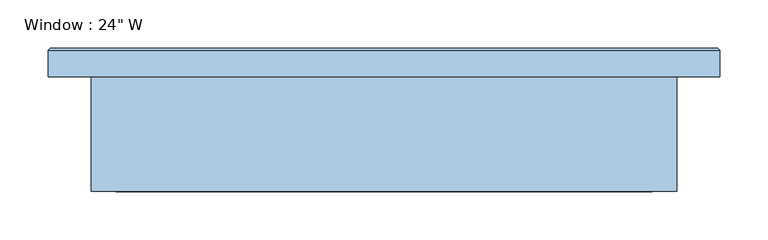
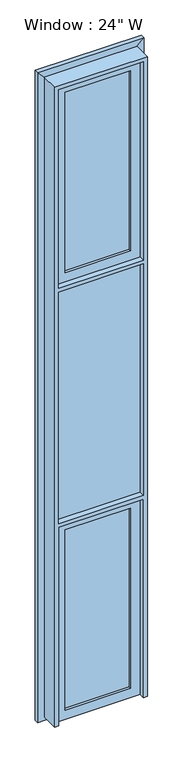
"""IFC4 building model written with IfcOpenShell, lengths in millimetres: window geometry."""

from ifc_helpers import new_model, si_unit, frame, origin, place, context, project, spatial, polyline, ellipse_curve, outline, extrude, faceted_brep, source, transform, mapped, element, save
from ifc_brep_helpers import plane_surface, cylinder_surface, advanced_brep


def window_8adb934c(model_context):
    return source(origin(), model_context, "Body", "SolidModel", [
        faceted_brep([(292.1, 119.0625, 781.05), (294.0950984, 121.0575984, 781.05), (294.345064, 121.307564, 781.05), (319.745064, 121.307564, 781.05), (321.9901281, 123.5526281, 781.05), (347.3901281, 123.5526281, 781.05), (349.6351921, 121.307564, 781.05), (349.6351921, 121.0575984, 781.05), (349.6351921, 93.6625, 781.05), (292.1, 93.6625, 781.05), (292.1, 119.0625, 781.5176691), (292.1, 119.0625, 5232.4), (294.345064, 121.307564, 5234.645064), (319.745064, 121.307564, 5260.045064), (321.9901281, 123.5526281, 5262.2901281), (347.3901281, 123.5526281, 5287.6901281), (349.6351921, 121.307564, 5289.9351921), (349.6351921, 93.6625, 5289.9351921), (349.6351921, 93.6625, 787.4716586), (292.1, 93.6625, 5232.4), (292.1, 93.6625, 787.4716586), (-292.1, 119.0625, 5232.4), (-294.345064, 121.307564, 5234.645064), (-319.745064, 121.307564, 5260.045064), (-321.9901281, 123.5526281, 5262.2901281), (-347.3901281, 123.5526281, 5287.6901281), (-349.6351921, 121.307564, 5289.9351921), (-349.6351921, 93.6625, 5289.9351921), (-292.1, 93.6625, 5232.4), (-292.1, 119.0625, 781.05), (-292.1, 93.6625, 781.05), (-349.6351921, 93.6625, 781.05), (-349.6351921, 121.0575984, 781.05), (-349.6351921, 121.307564, 781.05), (-347.3901281, 123.5526281, 781.05), (-321.9901281, 123.5526281, 781.05), (-319.745064, 121.307564, 781.05), (-294.345064, 121.307564, 781.05), (-294.0950984, 121.0575984, 781.05), (-292.1, 119.0625, 781.5176691), (-349.6351921, 93.6625, 787.4716586), (-292.1, 93.6625, 787.4716586)], [[[0, 1, 2, 3, 4, 5, 6, 7, 8, 9]], [[2, 1, 0, 10, 11, 12]], [[3, 2, 12, 13]], [[4, 3, 13, 14]], [[5, 4, 14, 15]], [[6, 5, 15, 16]], [[8, 7, 6, 16, 17, 18]], [[9, 8, 18, 17, 19, 20]], [[0, 9, 20, 19, 11, 10]], [[12, 11, 21, 22]], [[13, 12, 22, 23]], [[14, 13, 23, 24]], [[15, 14, 24, 25]], [[16, 15, 25, 26]], [[17, 16, 26, 27]], [[19, 17, 27, 28]], [[11, 19, 28, 21]], [[29, 30, 31, 32, 33, 34, 35, 36, 37, 38]], [[22, 21, 39, 29, 38, 37]], [[23, 22, 37, 36]], [[24, 23, 36, 35]], [[25, 24, 35, 34]], [[26, 25, 34, 33]], [[27, 26, 33, 32, 31, 40]], [[28, 27, 40, 31, 30, 41]], [[21, 28, 41, 30, 29, 39]]]),
        extrude(outline(polyline([(2184.4, -279.4), (806.45, -279.4), (806.45, 279.4), (2184.4, 279.4), (2184.4, -279.4)]), holes=[polyline([(2120.9, -215.9), (2120.9, 215.9), (869.95, 215.9), (869.95, -215.9), (2120.9, -215.9)])]), frame((0.0, 12.7, 0.0), z_axis=(0.0, 1.0, 0.0), x_axis=(0.0, 0.0, 1.0)), (0.0, 0.0, 1.0), 50.6015625),
        extrude(outline(polyline([(5219.7, -279.4), (3841.75, -279.4), (3841.75, 279.4), (5219.7, 279.4), (5219.7, -279.4)]), holes=[polyline([(5156.2, -215.9), (5156.2, 215.9), (3905.25, 215.9), (3905.25, -215.9), (5156.2, -215.9)])]), frame((0.0, 12.7, 0.0), z_axis=(0.0, 1.0, 0.0), x_axis=(0.0, 0.0, 1.0)), (0.0, 0.0, 1.0), 50.6015625),
        extrude(outline(polyline([(279.4, 12.7), (-279.4, 12.7), (-279.4, 63.3015625), (279.4, 63.3015625), (279.4, 12.7)])), frame((0.0, 0.0, 2209.8), z_axis=(0.0, 0.0, 1.0), x_axis=(1.0, 0.0, 0.0)), (0.0, 0.0, 1.0), 1606.55),
        extrude(outline(polyline([(5245.1, -304.8), (806.45, -304.8), (806.45, -279.4), (2184.4, -279.4), (2184.4, 279.4), (806.45, 279.4), (806.45, 304.8), (5245.1, 304.8), (5245.1, -304.8)]), holes=[polyline([(5219.7, -279.4), (5219.7, 279.4), (3841.75, 279.4), (3841.75, -279.4), (5219.7, -279.4)]), polyline([(3816.35, -279.4), (3816.35, 279.4), (2209.8, 279.4), (2209.8, -279.4), (3816.35, -279.4)])]), frame((0.0, -25.4, 0.0), z_axis=(0.0, 1.0, 0.0), x_axis=(0.0, 0.0, 1.0)), (0.0, 0.0, 1.0), 119.0625),
        extrude(outline(polyline([(215.9, 29.5671875), (-215.9, 29.5671875), (-215.9, 46.434375), (215.9, 46.434375), (215.9, 29.5671875)])), frame((0.0, 0.0, 869.95), z_axis=(0.0, 0.0, 1.0), x_axis=(1.0, 0.0, 0.0)), (0.0, 0.0, 1.0), 1250.95),
        extrude(outline(polyline([(-215.9, 46.434375), (215.9, 46.434375), (215.9, 29.5671875), (-215.9, 29.5671875), (-215.9, 46.434375)])), frame((0.0, 0.0, 3905.25), z_axis=(0.0, 0.0, 1.0), x_axis=(1.0, 0.0, 0.0)), (0.0, 0.0, 1.0), 1250.95),
        extrude(outline(polyline([(-177.8, 88.7015625), (177.8, 88.7015625), (177.8, 63.3015625), (-177.8, 63.3015625), (-177.8, 88.7015625)])), frame((0.0, 0.0, 2311.4), z_axis=(0.0, 0.0, 1.0), x_axis=(1.0, 0.0, 0.0)), (0.0, 0.0, 1.0), 1403.35),
        advanced_brep(
        [(-177.8, 63.3015625, 3714.75), (-203.2, 63.3015625, 3740.15), (-203.2, 63.3015625, 2286.0), (-177.8, 63.3015625, 2311.4), (-177.8, 88.7015625, 3714.75), (-177.8, 88.7015625, 2311.4), (-180.975, 88.7015625, 3717.925), (-180.975, 88.7015625, 2308.225), (-180.975, 85.5265625, 3717.925), (-180.975, 85.5265625, 2308.225), (-200.025, 66.4765625, 3736.975), (-200.025, 66.4765625, 2289.175), (-203.2, 66.4765625, 3740.15), (-203.2, 66.4765625, 2286.0), (203.2, 63.3015625, 2286.0), (177.8, 63.3015625, 2311.4), (177.8, 88.7015625, 2311.4), (180.975, 88.7015625, 2308.225), (180.975, 85.5265625, 2308.225), (200.025, 66.4765625, 2289.175), (203.2, 66.4765625, 2286.0), (203.2, 63.3015625, 3740.15), (177.8, 63.3015625, 3714.75), (177.8, 88.7015625, 3714.75), (180.975, 88.7015625, 3717.925), (180.975, 85.5265625, 3717.925), (200.025, 66.4765625, 3736.975), (203.2, 66.4765625, 3740.15)],
        [
            (0, 1),
            (1, 2),
            (2, 3),
            (3, 0),
            (4, 0),
            (3, 5),
            (5, 4),
            (6, 4),
            (5, 7),
            (7, 6),
            (8, 6),
            (7, 9),
            (9, 8),
            (10, 8, ellipse_curve(frame((-180.975, 66.4765625, 3717.925), z_axis=(-0.7071067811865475, 0.0, -0.7071067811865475), x_axis=(-0.7071067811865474, 0.0, 0.7071067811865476)), 26.9407684, 19.05)),
            (9, 11, ellipse_curve(frame((-180.975, 66.4765625, 2308.225), z_axis=(-0.7071067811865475, 0.0, 0.7071067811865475), x_axis=(0.7071067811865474, 0.0, 0.7071067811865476)), 26.9407684, 19.05)),
            (11, 10),
            (12, 10),
            (11, 13),
            (13, 12),
            (1, 12),
            (13, 2),
            (2, 14),
            (14, 15),
            (15, 3),
            (15, 16),
            (16, 5),
            (16, 17),
            (17, 7),
            (17, 18),
            (18, 9),
            (18, 19, ellipse_curve(frame((180.975, 66.4765625, 2308.225), z_axis=(-0.7071067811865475, 0.0, -0.7071067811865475), x_axis=(-0.7071067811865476, 0.0, 0.7071067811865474)), 26.9407684, 19.05)),
            (19, 11),
            (19, 20),
            (20, 13),
            (20, 14),
            (14, 21),
            (21, 22),
            (22, 15),
            (22, 23),
            (23, 16),
            (23, 24),
            (24, 17),
            (24, 25),
            (25, 18),
            (25, 26, ellipse_curve(frame((180.975, 66.4765625, 3717.925), z_axis=(0.7071067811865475, 0.0, -0.7071067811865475), x_axis=(-0.7071067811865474, 0.0, -0.7071067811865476)), 26.9407684, 19.05)),
            (26, 19),
            (26, 27),
            (27, 20),
            (27, 21),
            (21, 1),
            (0, 22),
            (4, 23),
            (6, 24),
            (8, 25),
            (10, 26),
            (12, 27),
        ],
        [
            plane_surface(frame((-203.2, 63.3015625, 3740.15), z_axis=(0.0, -1.0, 0.0), x_axis=(0.0, 0.0, -1.0))),
            plane_surface(frame((-177.8, 63.3015625, 3714.75), z_axis=(1.0, 0.0, 0.0), x_axis=(0.0, 0.0, -1.0))),
            plane_surface(frame((-177.8, 88.7015625, 3714.75), z_axis=(0.0, 1.0, 0.0), x_axis=(0.0, 0.0, -1.0))),
            plane_surface(frame((-180.975, 88.7015625, 3717.925), z_axis=(-1.0, 0.0, 0.0), x_axis=(0.0, 0.0, -1.0))),
            cylinder_surface(frame((-180.975, 66.4765625, 3714.75), z_axis=(0.0, 0.0, 1.0), x_axis=(1.0, 0.0, 0.0)), 19.05),
            plane_surface(frame((-200.025, 66.4765625, 3736.975), z_axis=(0.0, 1.0, 0.0), x_axis=(0.0, 0.0, -1.0))),
            plane_surface(frame((-203.2, 66.4765625, 3740.15), z_axis=(-1.0, 0.0, 0.0), x_axis=(0.0, 0.0, -1.0))),
            plane_surface(frame((-203.2, 63.3015625, 2286.0), z_axis=(0.0, -1.0, 0.0), x_axis=(1.0, 0.0, 0.0))),
            plane_surface(frame((-177.8, 63.3015625, 2311.4), z_axis=(0.0, 0.0, 1.0), x_axis=(1.0, 0.0, 0.0))),
            plane_surface(frame((-177.8, 88.7015625, 2311.4), z_axis=(0.0, 1.0, 0.0), x_axis=(1.0, 0.0, 0.0))),
            plane_surface(frame((-180.975, 88.7015625, 2308.225), z_axis=(0.0, 0.0, -1.0), x_axis=(1.0, 0.0, 0.0))),
            cylinder_surface(frame((-177.8, 66.4765625, 2308.225), z_axis=(-1.0, 0.0, 0.0), x_axis=(0.0, 0.0, 1.0)), 19.05),
            plane_surface(frame((-200.025, 66.4765625, 2289.175), z_axis=(0.0, 1.0, 0.0), x_axis=(1.0, 0.0, 0.0))),
            plane_surface(frame((-203.2, 66.4765625, 2286.0), z_axis=(0.0, 0.0, -1.0), x_axis=(1.0, 0.0, 0.0))),
            plane_surface(frame((203.2, 63.3015625, 2286.0), z_axis=(0.0, -1.0, 0.0), x_axis=(0.0, 0.0, 1.0))),
            plane_surface(frame((177.8, 63.3015625, 2311.4), z_axis=(-1.0, 0.0, 0.0), x_axis=(0.0, 0.0, 1.0))),
            plane_surface(frame((177.8, 88.7015625, 2311.4), z_axis=(0.0, 1.0, 0.0), x_axis=(0.0, 0.0, 1.0))),
            plane_surface(frame((180.975, 88.7015625, 2308.225), z_axis=(1.0, 0.0, 0.0), x_axis=(0.0, 0.0, 1.0))),
            cylinder_surface(frame((180.975, 66.4765625, 2311.4), z_axis=(0.0, 0.0, -1.0), x_axis=(-1.0, 0.0, 0.0)), 19.05),
            plane_surface(frame((200.025, 66.4765625, 2289.175), z_axis=(0.0, 1.0, 0.0), x_axis=(0.0, 0.0, 1.0))),
            plane_surface(frame((203.2, 66.4765625, 2286.0), z_axis=(1.0, 0.0, 0.0), x_axis=(0.0, 0.0, 1.0))),
            plane_surface(frame((203.2, 63.3015625, 3740.15), z_axis=(0.0, -1.0, 0.0), x_axis=(-1.0, 0.0, 0.0))),
            plane_surface(frame((177.8, 63.3015625, 3714.75), z_axis=(0.0, 0.0, -1.0), x_axis=(-1.0, 0.0, 0.0))),
            plane_surface(frame((177.8, 88.7015625, 3714.75), z_axis=(0.0, 1.0, 0.0), x_axis=(-1.0, 0.0, 0.0))),
            plane_surface(frame((180.975, 88.7015625, 3717.925), z_axis=(0.0, 0.0, 1.0), x_axis=(-1.0, 0.0, 0.0))),
            cylinder_surface(frame((177.8, 66.4765625, 3717.925), z_axis=(1.0, 0.0, 0.0), x_axis=(0.0, 0.0, -1.0)), 19.05),
            plane_surface(frame((200.025, 66.4765625, 3736.975), z_axis=(0.0, 1.0, 0.0), x_axis=(-1.0, 0.0, 0.0))),
            plane_surface(frame((203.2, 66.4765625, 3740.15), z_axis=(0.0, 0.0, 1.0), x_axis=(-1.0, 0.0, 0.0))),
        ],
        [
            (0, [[1, 2, 3, 4]]),
            (1, [[5, -4, 6, 7]]),
            (2, [[8, -7, 9, 10]]),
            (3, [[11, -10, 12, 13]]),
            (4, [[14, -13, 15, 16]]),
            (5, [[17, -16, 18, 19]]),
            (6, [[20, -19, 21, -2]]),
            (7, [[-3, 22, 23, 24]]),
            (8, [[-6, -24, 25, 26]]),
            (9, [[-9, -26, 27, 28]]),
            (10, [[-12, -28, 29, 30]]),
            (11, [[-15, -30, 31, 32]]),
            (12, [[-18, -32, 33, 34]]),
            (13, [[-21, -34, 35, -22]]),
            (14, [[-23, 36, 37, 38]]),
            (15, [[-25, -38, 39, 40]]),
            (16, [[-27, -40, 41, 42]]),
            (17, [[-29, -42, 43, 44]]),
            (18, [[-31, -44, 45, 46]]),
            (19, [[-33, -46, 47, 48]]),
            (20, [[-35, -48, 49, -36]]),
            (21, [[-37, 50, -1, 51]]),
            (22, [[-39, -51, -5, 52]]),
            (23, [[-41, -52, -8, 53]]),
            (24, [[-43, -53, -11, 54]]),
            (25, [[-45, -54, -14, 55]]),
            (26, [[-47, -55, -17, 56]]),
            (27, [[-49, -56, -20, -50]]),
        ],
    ),
    ])


if __name__ == "__main__":
    model = new_model("IFC4")
    model_context = context("Model", 3, world=origin())
    ifc_project = project(units=[si_unit("LENGTHUNIT", "METRE", prefix="MILLI")], contexts=[model_context])
    site = spatial("IfcSite", under=ifc_project)
    building = spatial("IfcBuilding", under=site)
    placement = place(None, origin())
    window_shape = window_8adb934c(model_context)
    element("IfcWindow", 1, ObjectType="Window : 24\" W", at=placement, inside=building, context=model_context, shape_type="MappedRepresentation", body=[
        mapped(window_shape, transform((0.0, 0.0, 0.0), x_axis=(1.0, 0.0, 0.0), y_axis=(0.0, 1.0, 0.0), z_axis=(0.0, 0.0, 1.0))),
    ])
    save(model, "model.ifc")
